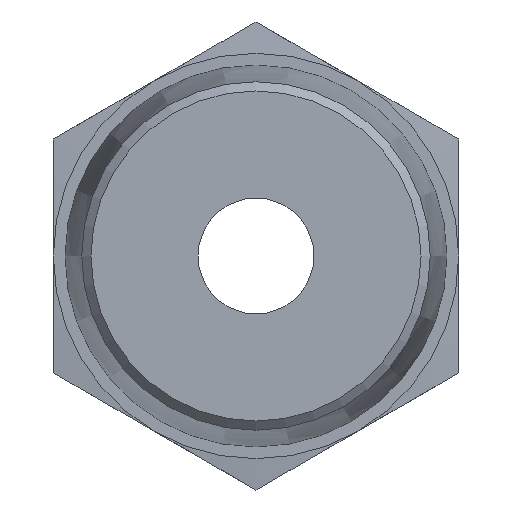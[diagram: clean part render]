
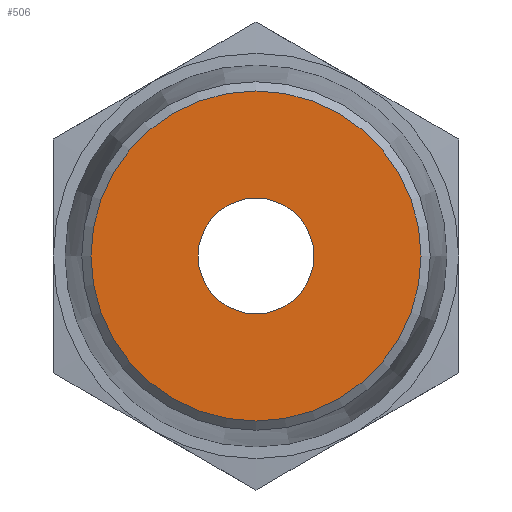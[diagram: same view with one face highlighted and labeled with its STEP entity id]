
A CAD part, front view. The second image highlights one B-rep face of the part: STEP entity #506.
In plain terms, the highlighted planar face has unit normal (0, -1, 0).
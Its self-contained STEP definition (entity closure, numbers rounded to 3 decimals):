
#57=FACE_BOUND('',#124,.T.);
#65=PLANE('',#579);
#84=FACE_OUTER_BOUND('',#123,.T.);
#123=EDGE_LOOP('',(#371));
#124=EDGE_LOOP('',(#372));
#191=CIRCLE('',#560,2.);
#203=CIRCLE('',#578,5.7);
#225=VERTEX_POINT('',#792);
#236=VERTEX_POINT('',#824);
#270=EDGE_CURVE('',#225,#225,#191,.T.);
#286=EDGE_CURVE('',#236,#236,#203,.T.);
#371=ORIENTED_EDGE('',*,*,#286,.F.);
#372=ORIENTED_EDGE('',*,*,#270,.T.);
#506=ADVANCED_FACE('',(#84,#57),#65,.T.);
#560=AXIS2_PLACEMENT_3D('',#793,#634,#635);
#578=AXIS2_PLACEMENT_3D('',#826,#674,#675);
#579=AXIS2_PLACEMENT_3D('',#827,#676,#677);
#634=DIRECTION('center_axis',(0.,1.,0.));
#635=DIRECTION('ref_axis',(1.,0.,0.));
#674=DIRECTION('center_axis',(0.,1.,0.));
#675=DIRECTION('ref_axis',(-1.,0.,0.));
#676=DIRECTION('center_axis',(0.,-1.,0.));
#677=DIRECTION('ref_axis',(0.,0.,-1.));
#792=CARTESIAN_POINT('',(-2.,-10.,0.));
#793=CARTESIAN_POINT('Origin',(0.,-10.,0.));
#824=CARTESIAN_POINT('',(5.7,-10.,0.));
#826=CARTESIAN_POINT('Origin',(0.,-10.,0.));
#827=CARTESIAN_POINT('Origin',(6.,-10.,0.));
